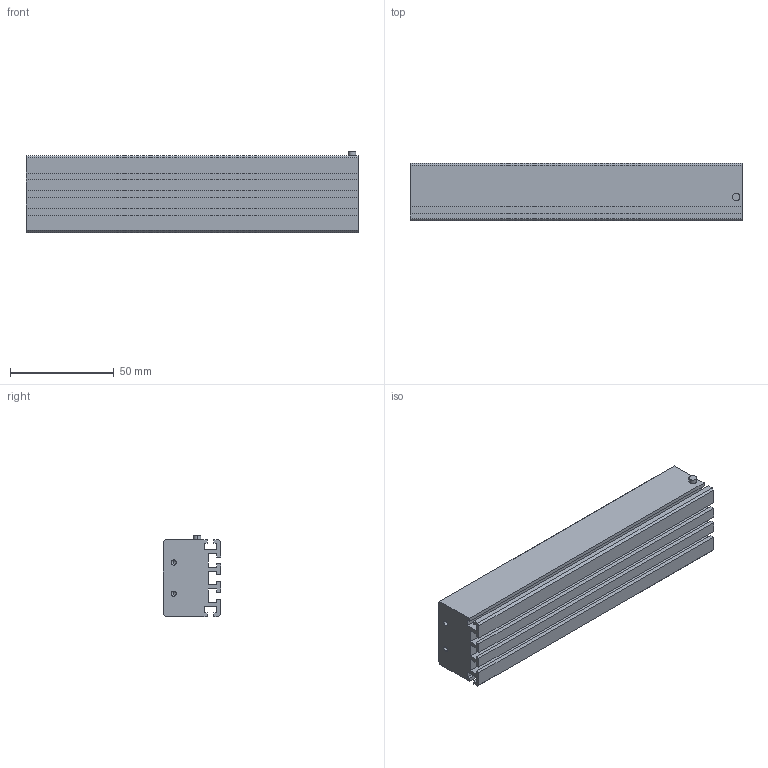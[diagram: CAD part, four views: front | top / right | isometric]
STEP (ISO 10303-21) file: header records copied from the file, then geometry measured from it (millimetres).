
FILE_DESCRIPTION (( 'STEP AP203' ), '1' );
FILE_NAME ('LRD-B6-160.STEP', '2022-08-25T01:15:29', ( 'TNT' ), ( '' ), 'SwSTEP 2.0', 'SolidWorks 2018', '' );
FILE_SCHEMA (( 'CONFIG_CONTROL_DESIGN' ));
Length unit declared in the file: millimetre
Products named in the file (1): LRD-B6-160
Bounding box: 160 x 27.7 x 39.1 mm (x, y, z)
Volume: 136129 mm3; surface area: 36332.2 mm2
Topology: 1 solids, 1 shells, 74 faces, 202 edges, 128 vertices
Faces by surface type: plane 56, cylinder 10, cone 8
Entity records: 2323 total; most frequent: CARTESIAN_POINT 397, ORIENTED_EDGE 388, DIRECTION 364, EDGE_CURVE 194, LINE 174, VECTOR 174, VERTEX_POINT 128, AXIS2_PLACEMENT_3D 95
